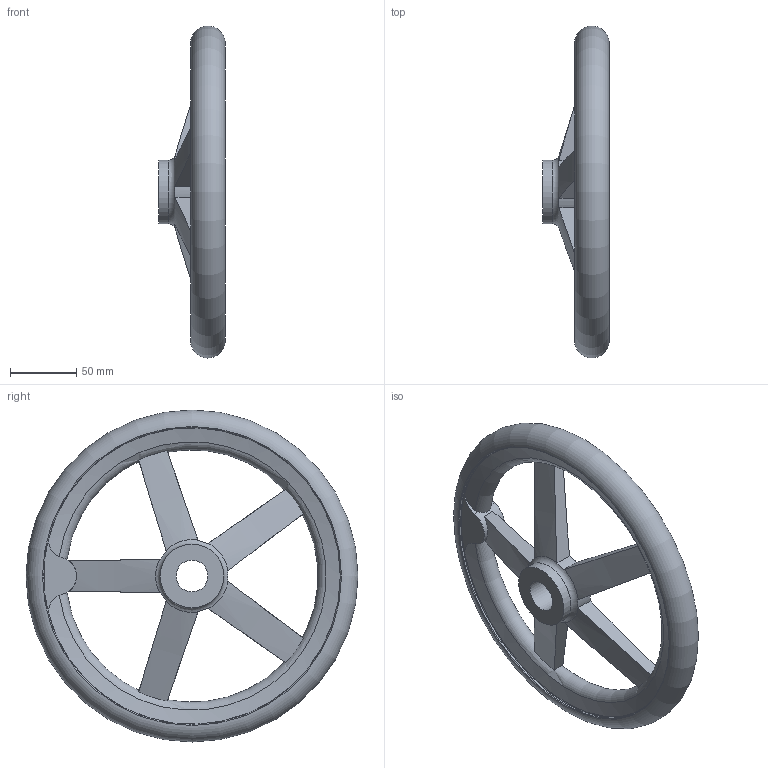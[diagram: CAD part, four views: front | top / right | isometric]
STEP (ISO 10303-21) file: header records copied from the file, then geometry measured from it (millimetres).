
FILE_DESCRIPTION( ( 'STEP AP203' ), '1' );
FILE_NAME( 'C:/Temp/Ganter_Step_05_03_2020/data/1_3/din_950/din_950_b/din_950_b_a/Handwheel DIN 950-AL-250-B24-A.stp', '2020-03-05T10:29:25', ( 'License CC BY-ND 4.0' ), ( 'CADENAS' ), ' ', 'PARTsolutions', ' ' );
FILE_SCHEMA( ( 'CONFIG_CONTROL_DESIGN' ) );
Length unit declared in the file: millimetre
Products named in the file (1): _Handwheel DIN 950-AL-250-B24-A
Bounding box: 50 x 249.99 x 249.99 mm (x, y, z)
Volume: 515057.2 mm3; surface area: 94858 mm2
Topology: 1 solids, 1 shells, 49 faces, 147 edges, 95 vertices
Faces by surface type: cylinder 15, plane 14, torus 12, cone 8
Full cylindrical faces by diameter (mm): 24 x1, 48 x2, 224 x2
Entity records: 2110 total; most frequent: CARTESIAN_POINT 874, ORIENTED_EDGE 260, DIRECTION 220, EDGE_CURVE 130, AXIS2_PLACEMENT_3D 102, VERTEX_POINT 92, EDGE_LOOP 69, B_SPLINE_CURVE_WITH_KNOTS 62
